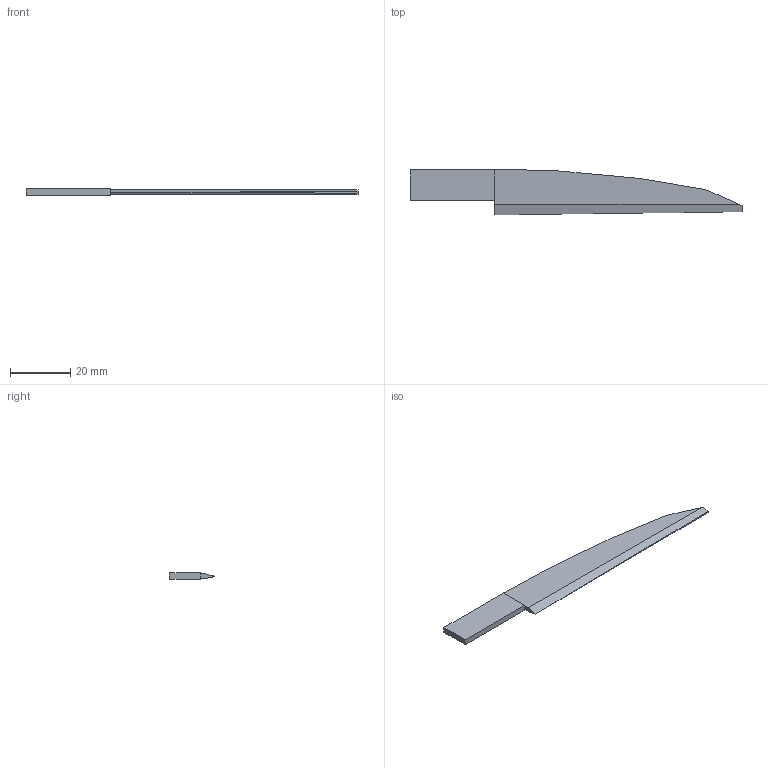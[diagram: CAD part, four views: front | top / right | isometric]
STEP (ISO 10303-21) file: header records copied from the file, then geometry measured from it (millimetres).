
FILE_DESCRIPTION(('Open CASCADE Model'),'2;1');
FILE_NAME('Open CASCADE Shape Model','2026-08-15T08:52:40',('Author'),( 'Open CASCADE'),'Open CASCADE STEP processor 7.9','Open CASCADE 7.9' ,'Unknown');
FILE_SCHEMA(('AUTOMOTIVE_DESIGN { 1 0 10303 214 1 1 1 1 }'));
Length unit declared in the file: millimetre
Products named in the file (1): Open CASCADE STEP translator 7.9 2
Bounding box: 110 x 15.2 x 2 mm (x, y, z)
Volume: 1846.4 mm3; surface area: 2715.6 mm2
Topology: 1 solids, 1 shells, 22 faces, 55 edges, 35 vertices
Faces by surface type: plane 22
Entity records: 1338 total; most frequent: CARTESIAN_POINT 249, DIRECTION 185, LINE 139, VECTOR 139, ORIENTED_EDGE 110, PCURVE 110, DEFINITIONAL_REPRESENTATION 110, EDGE_CURVE 55
